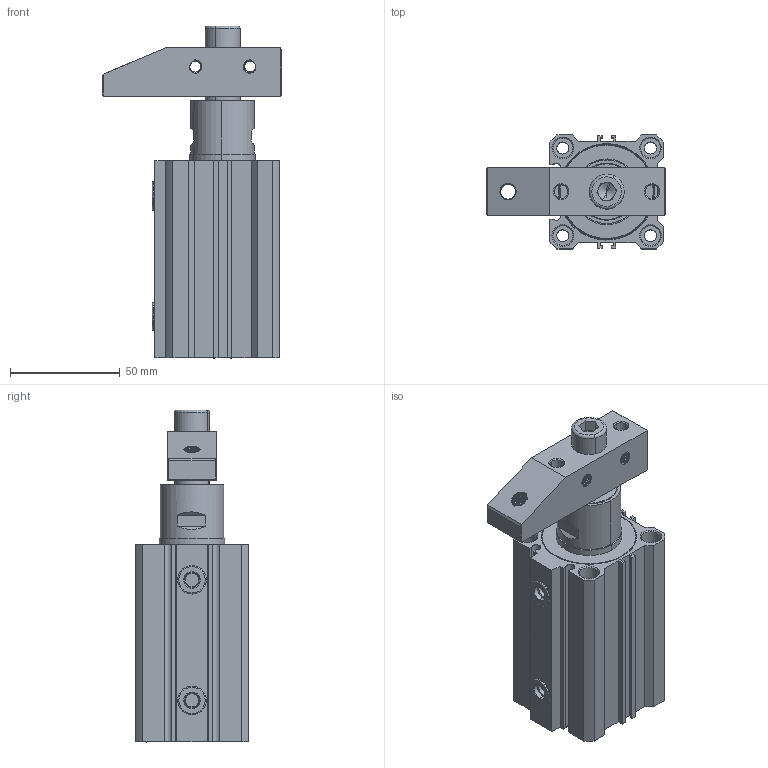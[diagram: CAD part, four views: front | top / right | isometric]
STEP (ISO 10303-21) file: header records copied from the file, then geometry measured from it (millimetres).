
FILE_DESCRIPTION(('FreeCAD Model'),'2;1');
FILE_NAME('Open CASCADE Shape Model','2021-08-17T16:26:50',('Author'),( ''),'Open CASCADE STEP processor 7.4','FreeCAD','Unknown');
FILE_SCHEMA(('AUTOMOTIVE_DESIGN { 1 0 10303 214 1 1 1 1 }'));
Length unit declared in the file: millimetre
Products named in the file (12): PLP-L-40; SOLID001; SOLID002; SOLID003; SOLID004; SOLID005; SOLID007; SOLID008; SOLID009; SOLID010; SOLID011; SOLID012
Assembly tree (12 placements, depth 2):
  PLP-L-40
    SOLID001
    SOLID002
    SOLID003
    SOLID004
    SOLID005  x2
    SOLID007
    SOLID008
    SOLID009
    SOLID010
    SOLID011
    SOLID012
Bounding box: 82 x 52 x 151.5 mm (x, y, z)
Volume: 216438.5 mm3; surface area: 102111.7 mm2
Topology: 12 solids, 12 shells, 1145 faces, 2703 edges, 1630 vertices
Faces by surface type: cylinder 491, cone 316, plane 197, torus 96, bspline 45
Entity records: 116663 total; most frequent: CARTESIAN_POINT 64830, DIRECTION 9375, ORIENTED_EDGE 5302, PCURVE 5302, DEFINITIONAL_REPRESENTATION 5302, LINE 5162, VECTOR 5162, EDGE_CURVE 2651
